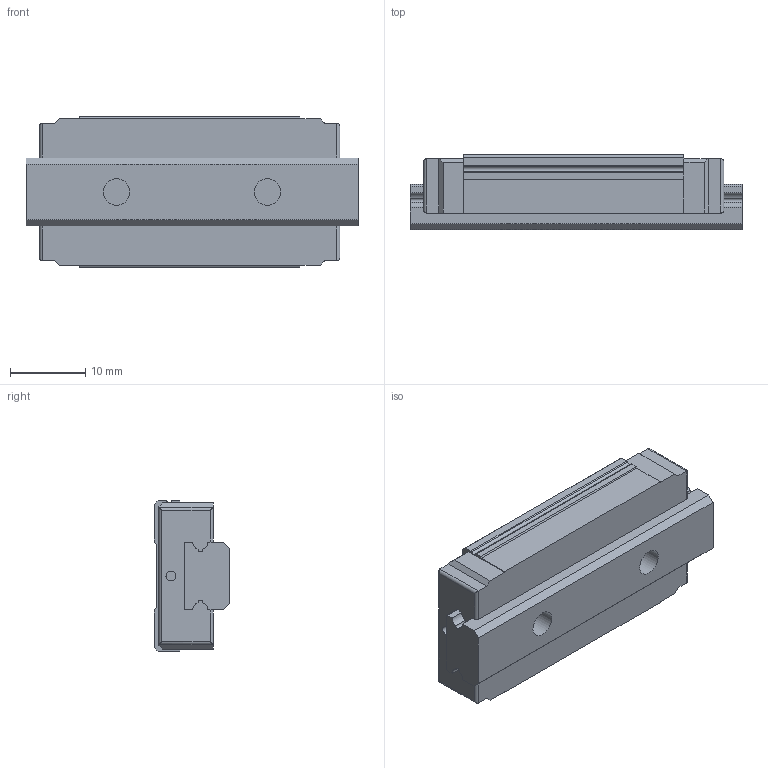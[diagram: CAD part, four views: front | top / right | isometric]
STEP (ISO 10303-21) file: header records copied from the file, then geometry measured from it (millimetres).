
FILE_DESCRIPTION( ( 'STEP AP214' ), '1' );
FILE_NAME( 'G:/品牌/AZI工艺/滑块/GGC/GGC9BAL.stp', '2024-01-19T03:43:41', ( 'License CC BY-ND 4.0' ), ( 'CADENAS' ), ' ', 'PARTsolutions', ' ' );
FILE_SCHEMA( ( 'AUTOMOTIVE_DESIGN { 1 0 10303 214 1 1 1 1 }' ) );
Length unit declared in the file: millimetre
Products named in the file (3): ZLCE10-44-(21.7-0-0); _ZTCE10-44; _ZZLCE10
Assembly tree (2 placements, depth 2):
  ZLCE10-44-(21.7-0-0)
    _ZTCE10-44
    _ZZLCE10
Bounding box: 44 x 10 x 20 mm (x, y, z)
Volume: 6683.6 mm3; surface area: 4566.1 mm2
Topology: 2 solids, 2 shells, 104 faces, 272 edges, 176 vertices
Faces by surface type: plane 57, cylinder 39, cone 8
Full cylindrical faces by diameter (mm): 1.3 x2, 2.459 x4, 3.5 x2, 6 x2
Entity records: 3966 total; most frequent: DIRECTION 538, CARTESIAN_POINT 533, ORIENTED_EDGE 500, EDGE_CURVE 250, AXIS2_PLACEMENT_3D 181, VERTEX_POINT 176, LINE 176, VECTOR 176
